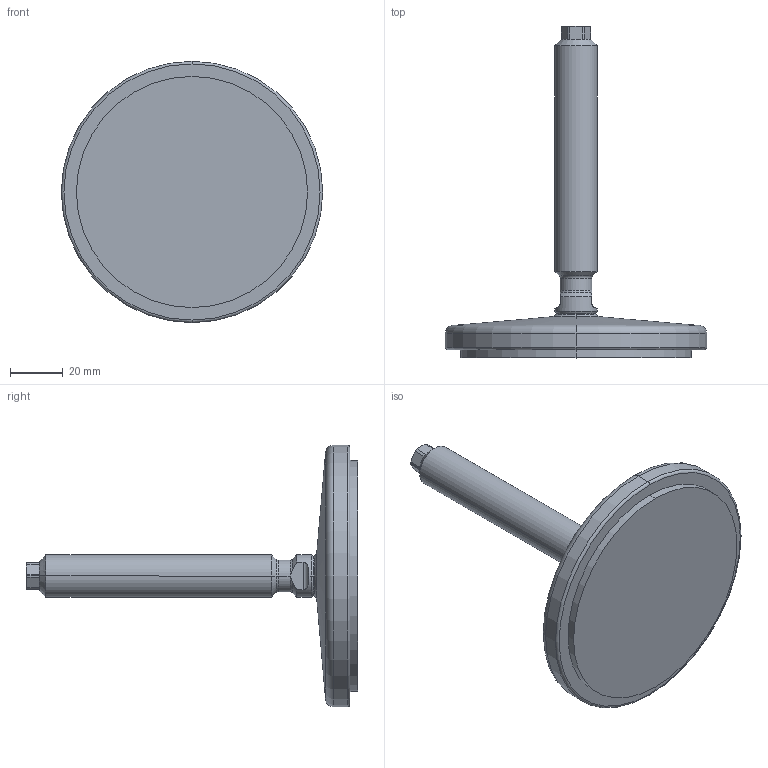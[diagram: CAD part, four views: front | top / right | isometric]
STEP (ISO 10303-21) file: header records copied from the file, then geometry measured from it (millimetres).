
FILE_DESCRIPTION (( 'STEP AP214' ), '1' );
FILE_NAME ('21-100-M16-100-D1-V.step', '2020-10-02T17:37:07', ( '' ), ( '' ), 'SwSTEP 2.0', 'SolidWorks 2019', '' );
FILE_SCHEMA (( 'AUTOMOTIVE_DESIGN' ));
Length unit declared in the file: millimetre
Products named in the file (3): 21-100-M16-100-D1-V; WB21_Fußteller 21^WB21_V_D1-100-R10-B7 (M8 M10_M12_M16); WB21_Spindel_V^WB21_V_M16-100
Assembly tree (2 placements, depth 2):
  21-100-M16-100-D1-V
    WB21_Fußteller 21^WB21_V_D1-100-R10-B7 (M8 M10_M12_M16)
    WB21_Spindel_V^WB21_V_M16-100
Bounding box: 99 x 125.64 x 99 mm (x, y, z)
Volume: 118385 mm3; surface area: 24613 mm2
Topology: 2 solids, 2 shells, 76 faces, 171 edges, 101 vertices
Faces by surface type: cylinder 25, plane 20, cone 17, torus 10, sphere 4
Entity records: 2391 total; most frequent: CARTESIAN_POINT 509, DIRECTION 390, ORIENTED_EDGE 342, EDGE_CURVE 171, AXIS2_PLACEMENT_3D 166, VERTEX_POINT 101, CIRCLE 85, EDGE_LOOP 78
